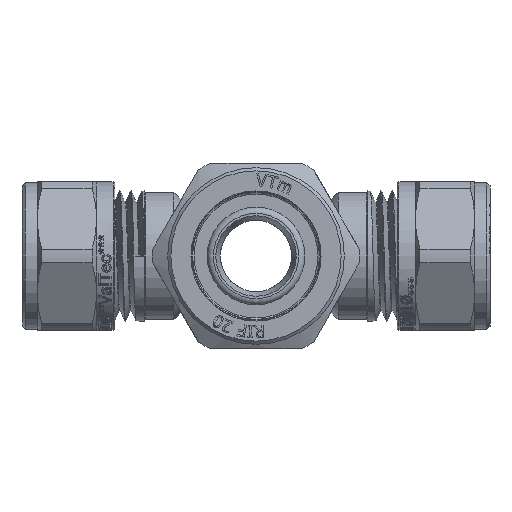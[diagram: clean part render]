
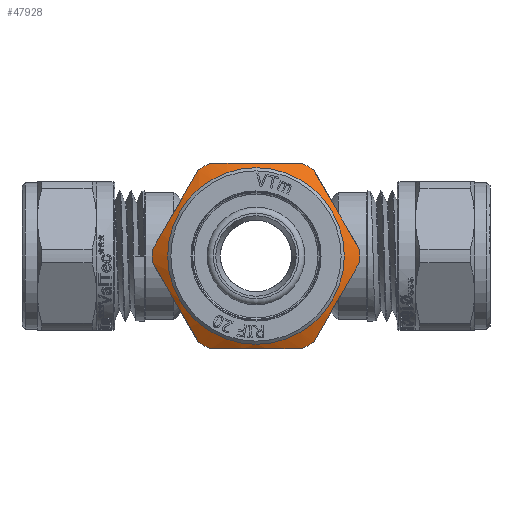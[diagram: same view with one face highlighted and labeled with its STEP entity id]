
A CAD part, left-side view. The second image highlights one B-rep face of the part: STEP entity #47928.
In plain terms, the highlighted conical face has half-angle 60 degrees and reference radius 15.484 mm.
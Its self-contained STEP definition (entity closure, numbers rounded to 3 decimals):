
#158=CONICAL_SURFACE('',#50452,15.484,1.047);
#226=(
BOUNDED_CURVE()
B_SPLINE_CURVE(2,(#96015,#96016,#96017),.UNSPECIFIED.,.F.,.F.)
B_SPLINE_CURVE_WITH_KNOTS((3,3),(0.,1.489),.UNSPECIFIED.)
CURVE()
GEOMETRIC_REPRESENTATION_ITEM()
RATIONAL_B_SPLINE_CURVE((1.,1.114,1.))
REPRESENTATION_ITEM('')
);
#228=(
BOUNDED_CURVE()
B_SPLINE_CURVE(2,(#96028,#96029,#96030),.UNSPECIFIED.,.F.,.F.)
B_SPLINE_CURVE_WITH_KNOTS((3,3),(0.,1.489),.UNSPECIFIED.)
CURVE()
GEOMETRIC_REPRESENTATION_ITEM()
RATIONAL_B_SPLINE_CURVE((1.,1.114,1.))
REPRESENTATION_ITEM('')
);
#230=(
BOUNDED_CURVE()
B_SPLINE_CURVE(2,(#96041,#96042,#96043),.UNSPECIFIED.,.F.,.F.)
B_SPLINE_CURVE_WITH_KNOTS((3,3),(0.,1.489),.UNSPECIFIED.)
CURVE()
GEOMETRIC_REPRESENTATION_ITEM()
RATIONAL_B_SPLINE_CURVE((1.,1.114,1.))
REPRESENTATION_ITEM('')
);
#232=(
BOUNDED_CURVE()
B_SPLINE_CURVE(2,(#96054,#96055,#96056),.UNSPECIFIED.,.F.,.F.)
B_SPLINE_CURVE_WITH_KNOTS((3,3),(0.,1.489),.UNSPECIFIED.)
CURVE()
GEOMETRIC_REPRESENTATION_ITEM()
RATIONAL_B_SPLINE_CURVE((1.,1.114,1.))
REPRESENTATION_ITEM('')
);
#234=(
BOUNDED_CURVE()
B_SPLINE_CURVE(2,(#96067,#96068,#96069),.UNSPECIFIED.,.F.,.F.)
B_SPLINE_CURVE_WITH_KNOTS((3,3),(0.,1.489),.UNSPECIFIED.)
CURVE()
GEOMETRIC_REPRESENTATION_ITEM()
RATIONAL_B_SPLINE_CURVE((1.,1.114,1.))
REPRESENTATION_ITEM('')
);
#236=(
BOUNDED_CURVE()
B_SPLINE_CURVE(2,(#96080,#96081,#96082),.UNSPECIFIED.,.F.,.F.)
B_SPLINE_CURVE_WITH_KNOTS((3,3),(0.,1.489),.UNSPECIFIED.)
CURVE()
GEOMETRIC_REPRESENTATION_ITEM()
RATIONAL_B_SPLINE_CURVE((1.,1.114,1.))
REPRESENTATION_ITEM('')
);
#4639=FACE_OUTER_BOUND('',#7439,.T.);
#7439=EDGE_LOOP('',(#42126,#42127,#42128,#42129,#42130,#42131,#42132,#42133,
#42134,#42135,#42136,#42137,#42138,#42139,#42140,#42141,#42142));
#8871=CIRCLE('',#50227,16.717);
#8872=CIRCLE('',#50229,16.717);
#8873=CIRCLE('',#50231,16.717);
#8874=CIRCLE('',#50233,16.717);
#8875=CIRCLE('',#50235,16.717);
#9032=CIRCLE('',#50450,14.25);
#9033=CIRCLE('',#50451,14.25);
#9034=CIRCLE('',#50453,16.717);
#9035=CIRCLE('',#50454,16.717);
#14694=LINE('',#97683,#17858);
#17858=VECTOR('',#57254,15.484);
#22001=VERTEX_POINT('',#96013);
#22002=VERTEX_POINT('',#96014);
#22005=VERTEX_POINT('',#96026);
#22006=VERTEX_POINT('',#96027);
#22009=VERTEX_POINT('',#96039);
#22010=VERTEX_POINT('',#96040);
#22013=VERTEX_POINT('',#96052);
#22014=VERTEX_POINT('',#96053);
#22017=VERTEX_POINT('',#96065);
#22018=VERTEX_POINT('',#96066);
#22021=VERTEX_POINT('',#96078);
#22022=VERTEX_POINT('',#96079);
#22373=VERTEX_POINT('',#97675);
#22374=VERTEX_POINT('',#97676);
#22375=VERTEX_POINT('',#97681);
#28634=EDGE_CURVE('',#22001,#22002,#226,.T.);
#28638=EDGE_CURVE('',#22005,#22006,#228,.T.);
#28642=EDGE_CURVE('',#22009,#22010,#230,.T.);
#28646=EDGE_CURVE('',#22013,#22014,#232,.T.);
#28650=EDGE_CURVE('',#22017,#22018,#234,.T.);
#28654=EDGE_CURVE('',#22021,#22022,#236,.T.);
#28987=EDGE_CURVE('',#22017,#22022,#8871,.T.);
#28988=EDGE_CURVE('',#22013,#22018,#8872,.T.);
#28989=EDGE_CURVE('',#22009,#22014,#8873,.T.);
#28990=EDGE_CURVE('',#22005,#22010,#8874,.T.);
#28991=EDGE_CURVE('',#22001,#22006,#8875,.T.);
#29170=EDGE_CURVE('',#22373,#22374,#9032,.T.);
#29171=EDGE_CURVE('',#22374,#22373,#9033,.T.);
#29173=EDGE_CURVE('',#22375,#22002,#9034,.T.);
#29174=EDGE_CURVE('',#22375,#22374,#14694,.T.);
#29175=EDGE_CURVE('',#22021,#22375,#9035,.T.);
#42126=ORIENTED_EDGE('',*,*,#28634,.T.);
#42127=ORIENTED_EDGE('',*,*,#29173,.F.);
#42128=ORIENTED_EDGE('',*,*,#29174,.T.);
#42129=ORIENTED_EDGE('',*,*,#29171,.T.);
#42130=ORIENTED_EDGE('',*,*,#29170,.T.);
#42131=ORIENTED_EDGE('',*,*,#29174,.F.);
#42132=ORIENTED_EDGE('',*,*,#29175,.F.);
#42133=ORIENTED_EDGE('',*,*,#28654,.T.);
#42134=ORIENTED_EDGE('',*,*,#28987,.F.);
#42135=ORIENTED_EDGE('',*,*,#28650,.T.);
#42136=ORIENTED_EDGE('',*,*,#28988,.F.);
#42137=ORIENTED_EDGE('',*,*,#28646,.T.);
#42138=ORIENTED_EDGE('',*,*,#28989,.F.);
#42139=ORIENTED_EDGE('',*,*,#28642,.T.);
#42140=ORIENTED_EDGE('',*,*,#28990,.F.);
#42141=ORIENTED_EDGE('',*,*,#28638,.T.);
#42142=ORIENTED_EDGE('',*,*,#28991,.F.);
#47928=ADVANCED_FACE('',(#4639),#158,.T.);
#50227=AXIS2_PLACEMENT_3D('',#97297,#56777,#56778);
#50229=AXIS2_PLACEMENT_3D('',#97299,#56781,#56782);
#50231=AXIS2_PLACEMENT_3D('',#97301,#56785,#56786);
#50233=AXIS2_PLACEMENT_3D('',#97303,#56789,#56790);
#50235=AXIS2_PLACEMENT_3D('',#97305,#56793,#56794);
#50450=AXIS2_PLACEMENT_3D('',#97677,#57245,#57246);
#50451=AXIS2_PLACEMENT_3D('',#97678,#57247,#57248);
#50452=AXIS2_PLACEMENT_3D('',#97680,#57250,#57251);
#50453=AXIS2_PLACEMENT_3D('',#97682,#57252,#57253);
#50454=AXIS2_PLACEMENT_3D('',#97684,#57255,#57256);
#56777=DIRECTION('center_axis',(1.,0.,0.));
#56778=DIRECTION('ref_axis',(0.,0.,1.));
#56781=DIRECTION('center_axis',(1.,0.,0.));
#56782=DIRECTION('ref_axis',(0.,0.,1.));
#56785=DIRECTION('center_axis',(1.,0.,0.));
#56786=DIRECTION('ref_axis',(0.,0.,1.));
#56789=DIRECTION('center_axis',(1.,0.,0.));
#56790=DIRECTION('ref_axis',(0.,0.,1.));
#56793=DIRECTION('center_axis',(1.,0.,0.));
#56794=DIRECTION('ref_axis',(0.,0.,1.));
#57245=DIRECTION('center_axis',(1.,0.,0.));
#57246=DIRECTION('ref_axis',(0.,0.,1.));
#57247=DIRECTION('center_axis',(1.,0.,0.));
#57248=DIRECTION('ref_axis',(0.,0.,1.));
#57250=DIRECTION('center_axis',(1.,0.,0.));
#57251=DIRECTION('ref_axis',(0.,1.,0.));
#57252=DIRECTION('center_axis',(1.,0.,0.));
#57253=DIRECTION('ref_axis',(0.,0.,1.));
#57254=DIRECTION('',(-0.5,0.866,0.));
#57255=DIRECTION('center_axis',(1.,0.,0.));
#57256=DIRECTION('ref_axis',(0.,0.,1.));
#96013=CARTESIAN_POINT('',(-35.057,-9.3,-13.892));
#96014=CARTESIAN_POINT('',(-35.057,-16.681,-1.108));
#96015=CARTESIAN_POINT('Ctrl Pts',(-35.057,-9.3,
-13.892));
#96016=CARTESIAN_POINT('Ctrl Pts',(-36.938,-12.99,
-7.5));
#96017=CARTESIAN_POINT('Ctrl Pts',(-35.057,-16.681,
-1.108));
#96026=CARTESIAN_POINT('',(-35.057,7.38,-15.));
#96027=CARTESIAN_POINT('',(-35.057,-7.38,-15.));
#96028=CARTESIAN_POINT('Ctrl Pts',(-35.057,7.38,-15.));
#96029=CARTESIAN_POINT('Ctrl Pts',(-36.938,0.,
-15.));
#96030=CARTESIAN_POINT('Ctrl Pts',(-35.057,-7.38,
-15.));
#96039=CARTESIAN_POINT('',(-35.057,16.681,-1.108));
#96040=CARTESIAN_POINT('',(-35.057,9.3,-13.892));
#96041=CARTESIAN_POINT('Ctrl Pts',(-35.057,16.681,-1.108));
#96042=CARTESIAN_POINT('Ctrl Pts',(-36.938,12.99,-7.5));
#96043=CARTESIAN_POINT('Ctrl Pts',(-35.057,9.3,-13.892));
#96052=CARTESIAN_POINT('',(-35.057,9.3,13.892));
#96053=CARTESIAN_POINT('',(-35.057,16.681,1.108));
#96054=CARTESIAN_POINT('Ctrl Pts',(-35.057,9.3,13.892));
#96055=CARTESIAN_POINT('Ctrl Pts',(-36.938,12.99,7.5));
#96056=CARTESIAN_POINT('Ctrl Pts',(-35.057,16.681,1.108));
#96065=CARTESIAN_POINT('',(-35.057,-7.38,15.));
#96066=CARTESIAN_POINT('',(-35.057,7.38,15.));
#96067=CARTESIAN_POINT('Ctrl Pts',(-35.057,-7.38,
15.));
#96068=CARTESIAN_POINT('Ctrl Pts',(-36.938,0.,
15.));
#96069=CARTESIAN_POINT('Ctrl Pts',(-35.057,7.38,15.));
#96078=CARTESIAN_POINT('',(-35.057,-16.681,1.108));
#96079=CARTESIAN_POINT('',(-35.057,-9.3,13.892));
#96080=CARTESIAN_POINT('Ctrl Pts',(-35.057,-16.681,
1.108));
#96081=CARTESIAN_POINT('Ctrl Pts',(-36.938,-12.99,
7.5));
#96082=CARTESIAN_POINT('Ctrl Pts',(-35.057,-9.3,
13.892));
#97297=CARTESIAN_POINT('Origin',(-35.057,0.,
0.));
#97299=CARTESIAN_POINT('Origin',(-35.057,0.,
0.));
#97301=CARTESIAN_POINT('Origin',(-35.057,0.,
0.));
#97303=CARTESIAN_POINT('Origin',(-35.057,0.,
0.));
#97305=CARTESIAN_POINT('Origin',(-35.057,0.,
0.));
#97675=CARTESIAN_POINT('',(-36.481,14.25,0.));
#97676=CARTESIAN_POINT('',(-36.481,-14.25,0.));
#97677=CARTESIAN_POINT('Origin',(-36.481,0.,
0.));
#97678=CARTESIAN_POINT('Origin',(-36.481,0.,
0.));
#97680=CARTESIAN_POINT('Origin',(-35.769,0.,
0.));
#97681=CARTESIAN_POINT('',(-35.057,-16.717,0.));
#97682=CARTESIAN_POINT('Origin',(-35.057,0.,
0.));
#97683=CARTESIAN_POINT('',(-35.769,-15.484,0.));
#97684=CARTESIAN_POINT('Origin',(-35.057,0.,
0.));
